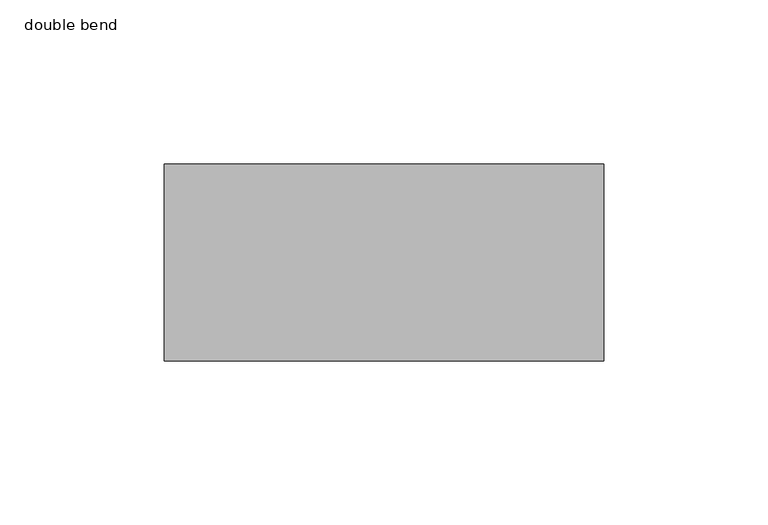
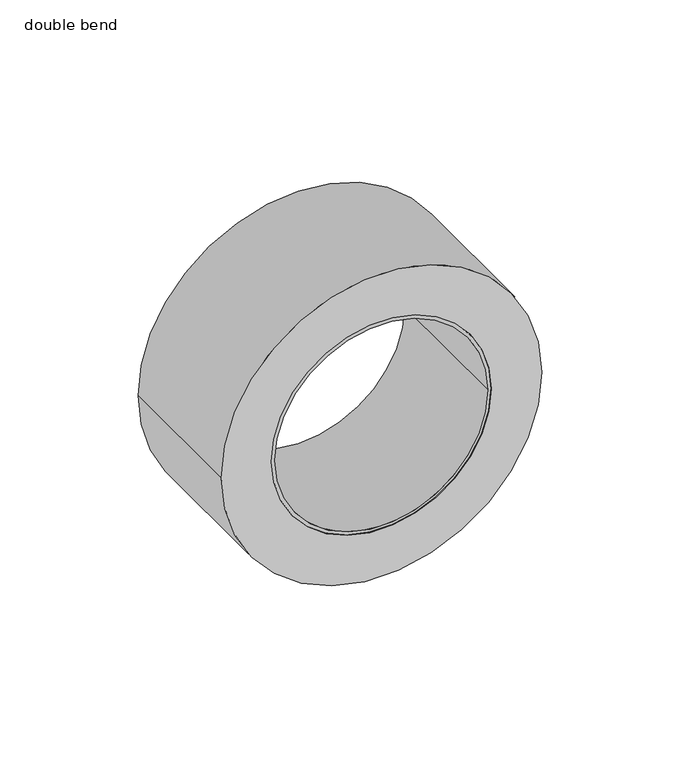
"""IFC4 building model written with IfcOpenShell, lengths in millimetres: pipe fitting geometry, PIF_ST_UN_GM-X compound pipe multi-bend_ACO : double bend."""

from ifc_helpers import new_model, si_unit, point, frame, origin, origin_2d, place, context, project, spatial, polyline, circle_curve, trimmed, segment, composite_curve, outline, extrude, source, transform, mapped, element, save
from ifc_brep_helpers import plane_surface, cylinder_surface, revolved_surface, advanced_brep


def double_bend_64b3920a(model_context):
    return source(origin(), model_context, "Body", "SolidModel", [
        extrude(outline(composite_curve([segment(trimmed(circle_curve(origin_2d(), 67.0), [point((0.0, 67.0))], [point((0.0, -67.0))], False, "CARTESIAN"), True, "CONTINUOUS"), segment(trimmed(circle_curve(origin_2d(), 67.0), [point((0.0, -67.0))], [point((0.0, 67.0))], False, "CARTESIAN"), True, "CONTINUOUS")], self_intersect=False), holes=[composite_curve([segment(trimmed(circle_curve(origin_2d(), 46.0), [point((0.0, 46.0))], [point((0.0, -46.0))], True, "CARTESIAN"), True, "CONTINUOUS"), segment(trimmed(circle_curve(origin_2d(), 46.0), [point((0.0, -46.0))], [point((0.0, 46.0))], True, "CARTESIAN"), True, "CONTINUOUS")], self_intersect=False)]), frame((0.0, 213.8234378, 0.0), z_axis=(0.0, 1.0, 0.0), x_axis=(0.0, 0.0, 1.0)), (0.0, 0.0, 1.0), 60.0),
        advanced_brep(
        [(46.0, 273.8234378, 0.0), (-46.0, 273.8234378, 0.0), (-44.5, 273.8234378, 0.0), (44.5, 273.8234378, 0.0), (46.0, 213.8234378, 0.0), (-46.0, 213.8234378, 0.0), (44.5, 213.8234378, 0.0), (-44.5, 213.8234378, 0.0), (46.0, 244.8234378, 0.0), (-46.0, 244.8234378, 0.0), (-46.0, 222.0234378, 0.0), (46.0, 222.0234378, 0.0), (51.3, 244.8234378, 0.0), (-51.3, 244.8234378, 0.0), (51.3, 222.0234378, 0.0), (-51.3, 222.0234378, 0.0)],
        [
            (0, 1, circle_curve(frame((0.0, 273.8234378, 0.0), z_axis=(0.0, 1.0, 0.0), x_axis=(-1.0, 0.0, 0.0)), 46.0)),
            (1, 0, circle_curve(frame((0.0, 273.8234378, 0.0), z_axis=(0.0, 1.0, 0.0), x_axis=(-1.0, 0.0, 0.0)), 46.0)),
            (2, 3, circle_curve(frame((0.0, 273.8234378, 0.0), z_axis=(0.0, -1.0, 0.0), x_axis=(-1.0, 0.0, 0.0)), 44.5)),
            (3, 2, circle_curve(frame((0.0, 273.8234378, 0.0), z_axis=(0.0, -1.0, 0.0), x_axis=(-1.0, 0.0, 0.0)), 44.5)),
            (4, 5, circle_curve(frame((0.0, 213.8234378, 0.0), z_axis=(0.0, -1.0, 0.0), x_axis=(-1.0, 0.0, 0.0)), 46.0)),
            (5, 4, circle_curve(frame((0.0, 213.8234378, 0.0), z_axis=(0.0, -1.0, 0.0), x_axis=(-1.0, 0.0, 0.0)), 46.0)),
            (6, 7, circle_curve(frame((0.0, 213.8234378, 0.0), z_axis=(0.0, 1.0, 0.0), x_axis=(-1.0, 0.0, 0.0)), 44.5)),
            (7, 6, circle_curve(frame((0.0, 213.8234378, 0.0), z_axis=(0.0, 1.0, 0.0), x_axis=(-1.0, 0.0, 0.0)), 44.5)),
            (0, 8),
            (8, 9, circle_curve(frame((0.0, 244.8234378, 0.0), z_axis=(0.0, 1.0, 0.0), x_axis=(-1.0, 0.0, 0.0)), 46.0)),
            (9, 1),
            (5, 10),
            (10, 11, circle_curve(frame((0.0, 222.0234378, 0.0), z_axis=(0.0, -1.0, 0.0), x_axis=(-1.0, 0.0, 0.0)), 46.0)),
            (11, 4),
            (9, 8, circle_curve(frame((0.0, 244.8234378, 0.0), z_axis=(0.0, 1.0, 0.0), x_axis=(-1.0, 0.0, 0.0)), 46.0)),
            (11, 10, circle_curve(frame((0.0, 222.0234378, 0.0), z_axis=(0.0, -1.0, 0.0), x_axis=(-1.0, 0.0, 0.0)), 46.0)),
            (2, 7),
            (6, 3),
            (12, 13, circle_curve(frame((0.0, 244.8234378, 0.0), z_axis=(0.0, 1.0, 0.0), x_axis=(-1.0, 0.0, 0.0)), 51.3)),
            (13, 12, circle_curve(frame((0.0, 244.8234378, 0.0), z_axis=(0.0, 1.0, 0.0), x_axis=(-1.0, 0.0, 0.0)), 51.3)),
            (14, 15, circle_curve(frame((0.0, 222.0234378, 0.0), z_axis=(0.0, -1.0, 0.0), x_axis=(-1.0, 0.0, 0.0)), 51.3)),
            (15, 14, circle_curve(frame((0.0, 222.0234378, 0.0), z_axis=(0.0, -1.0, 0.0), x_axis=(-1.0, 0.0, 0.0)), 51.3)),
            (12, 14),
            (15, 13),
        ],
        [
            plane_surface(frame((-46.0, 273.8234378, 0.0), z_axis=(0.0, 1.0, 0.0), x_axis=(0.0, 0.0, 1.0))),
            plane_surface(frame((-46.0, 213.8234378, 0.0), z_axis=(0.0, -1.0, 0.0), x_axis=(0.0, 0.0, -1.0))),
            cylinder_surface(frame((0.0, 213.8234378, 0.0), z_axis=(0.0, 1.0, 0.0), x_axis=(-1.0, 0.0, 0.0)), 46.0),
            revolved_surface(polyline([(-44.5, 273.8234378, 0.0), (-44.5, 213.8234378, 0.0)]), (0.0, 213.8234378, 0.0), (0.0, 1.0, 0.0)),
            plane_surface(frame((-51.3, 244.8234378, 0.0), z_axis=(0.0, 1.0, 0.0), x_axis=(0.0, 0.0, 1.0))),
            plane_surface(frame((-51.3, 222.0234378, 0.0), z_axis=(0.0, -1.0, 0.0), x_axis=(0.0, 0.0, -1.0))),
            cylinder_surface(frame((0.0, 222.0234378, 0.0), z_axis=(0.0, 1.0, 0.0), x_axis=(-1.0, 0.0, 0.0)), 51.3),
        ],
        [
            (0, [[1, 2], [3, 4]]),
            (1, [[5, 6], [7, 8]]),
            (2, [[-1, 9, 10, 11]]),
            (2, [[-6, 12, 13, 14]]),
            (2, [[-2, -11, 15, -9]]),
            (2, [[-5, -14, 16, -12]]),
            (3, [[17, -7, 18, -3]]),
            (3, [[-17, -4, -18, -8]]),
            (4, [[19, 20], [-10, -15]]),
            (5, [[21, 22], [-13, -16]]),
            (6, [[-19, 23, -22, 24]]),
            (6, [[-20, -24, -21, -23]]),
        ],
    ),
    ])


if __name__ == "__main__":
    model = new_model("IFC4")
    model_context = context("Model", 3, world=origin())
    ifc_project = project(units=[si_unit("LENGTHUNIT", "METRE", prefix="MILLI")], contexts=[model_context])
    site = spatial("IfcSite", under=ifc_project)
    building = spatial("IfcBuilding", under=site)
    placement = place(None, origin())
    double_bend_shape = double_bend_64b3920a(model_context)
    element("IfcPipeFitting", 1, ObjectType="PIF_ST_UN_GM-X compound pipe multi-bend_ACO : double bend", at=placement, inside=building, context=model_context, shape_type="MappedRepresentation", body=[
        mapped(double_bend_shape, transform((0.0, 0.0, 0.0), x_axis=(1.0, 0.0, 0.0), y_axis=(0.0, 1.0, 0.0), z_axis=(0.0, 0.0, 1.0))),
    ])
    save(model, "model.ifc")
